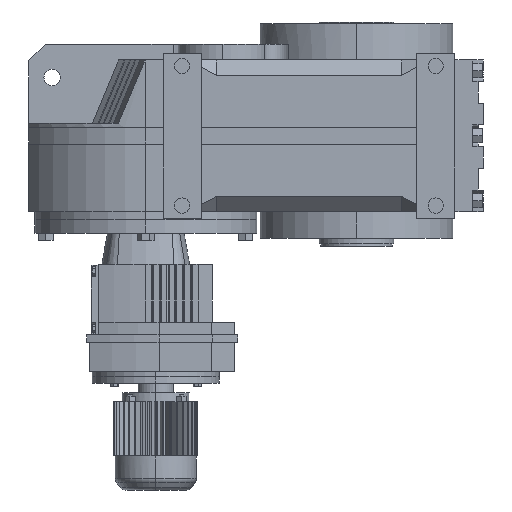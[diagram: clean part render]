
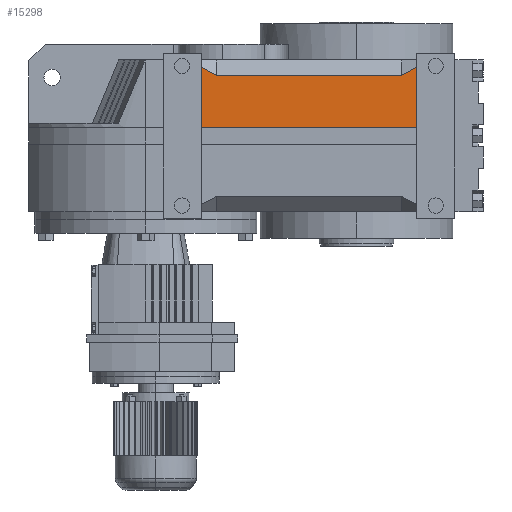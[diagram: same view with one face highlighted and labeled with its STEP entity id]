
A CAD part, left-side view. The second image highlights one B-rep face of the part: STEP entity #15298.
In plain terms, the highlighted planar face has unit normal (-1, 0, 0).
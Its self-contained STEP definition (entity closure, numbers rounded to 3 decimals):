
#2126 = PLANE('',#2127);
#2127 = AXIS2_PLACEMENT_3D('',#2128,#2129,#2130);
#2128 = CARTESIAN_POINT('',(-178.6,-87.4,2.5));
#2129 = DIRECTION('',(0.,-1.,0.));
#2130 = DIRECTION('',(1.,0.,0.));
#2154 = PLANE('',#2155);
#2155 = AXIS2_PLACEMENT_3D('',#2156,#2157,#2158);
#2156 = CARTESIAN_POINT('',(-315.577,-87.4,139.477));
#2157 = DIRECTION('',(-0.664,-0.342,0.664));
#2158 = DIRECTION('',(0.707,0.,0.707
    ));
#2182 = PLANE('',#2183);
#2183 = AXIS2_PLACEMENT_3D('',#2184,#2185,#2186);
#2184 = CARTESIAN_POINT('',(-190.6,1.,252.1));
#2185 = DIRECTION('',(-0.707,0.,
    0.707));
#2186 = DIRECTION('',(0.707,0.,0.707));
#2210 = PLANE('',#2211);
#2211 = AXIS2_PLACEMENT_3D('',#2212,#2213,#2214);
#2212 = CARTESIAN_POINT('',(-315.577,-427.4,139.477));
#2213 = DIRECTION('',(-0.664,0.342,0.664));
#2214 = DIRECTION('',(0.707,0.,0.707)
  );
#2238 = PLANE('',#2239);
#2239 = AXIS2_PLACEMENT_3D('',#2240,#2241,#2242);
#2240 = CARTESIAN_POINT('',(-178.6,-427.4,2.5));
#2241 = DIRECTION('',(0.,1.,0.));
#2242 = DIRECTION('',(-1.,0.,0.));
#6714 = VERTEX_POINT('',#6715);
#6715 = CARTESIAN_POINT('',(-214.6,-403.4,228.1));
#6736 = EDGE_CURVE('',#6737,#6714,#6739,.T.);
#6737 = VERTEX_POINT('',#6738);
#6738 = CARTESIAN_POINT('',(-214.6,-427.4,240.454));
#6739 = SURFACE_CURVE('',#6740,(#6744,#6751),.PCURVE_S1.);
#6740 = LINE('',#6741,#6742);
#6741 = CARTESIAN_POINT('',(-214.6,-515.146,285.619));
#6742 = VECTOR('',#6743,1.);
#6743 = DIRECTION('',(0.,0.889,
    -0.458));
#6744 = PCURVE('',#2210,#6745);
#6745 = DEFINITIONAL_REPRESENTATION('',(#6746),#6750);
#6746 = LINE('',#6747,#6748);
#6747 = CARTESIAN_POINT('',(174.74,-93.378));
#6748 = VECTOR('',#6749,1.);
#6749 = DIRECTION('',(-0.324,0.946));
#6750 = ( GEOMETRIC_REPRESENTATION_CONTEXT(2) 
PARAMETRIC_REPRESENTATION_CONTEXT() REPRESENTATION_CONTEXT('2D SPACE',''
  ) );
#6751 = PCURVE('',#6752,#6757);
#6752 = PLANE('',#6753);
#6753 = AXIS2_PLACEMENT_3D('',#6754,#6755,#6756);
#6754 = CARTESIAN_POINT('',(-214.6,-532.4,252.1));
#6755 = DIRECTION('',(1.,0.,0.));
#6756 = DIRECTION('',(0.,1.,0.));
#6757 = DEFINITIONAL_REPRESENTATION('',(#6758),#6762);
#6758 = LINE('',#6759,#6760);
#6759 = CARTESIAN_POINT('',(17.254,33.519));
#6760 = VECTOR('',#6761,1.);
#6761 = DIRECTION('',(0.889,-0.458));
#6762 = ( GEOMETRIC_REPRESENTATION_CONTEXT(2) 
PARAMETRIC_REPRESENTATION_CONTEXT() REPRESENTATION_CONTEXT('2D SPACE',''
  ) );
#8456 = VERTEX_POINT('',#8457);
#8457 = CARTESIAN_POINT('',(-214.6,-87.4,145.5));
#8471 = PLANE('',#8472);
#8472 = AXIS2_PLACEMENT_3D('',#8473,#8474,#8475);
#8473 = CARTESIAN_POINT('',(-9.231,1.,145.5));
#8474 = DIRECTION('',(0.,0.,-1.));
#8475 = DIRECTION('',(-1.,0.,0.));
#8483 = EDGE_CURVE('',#8484,#8456,#8486,.T.);
#8484 = VERTEX_POINT('',#8485);
#8485 = CARTESIAN_POINT('',(-214.6,-87.4,240.454));
#8486 = SURFACE_CURVE('',#8487,(#8491,#8498),.PCURVE_S1.);
#8487 = LINE('',#8488,#8489);
#8488 = CARTESIAN_POINT('',(-214.6,-87.4,252.1));
#8489 = VECTOR('',#8490,1.);
#8490 = DIRECTION('',(0.,0.,-1.));
#8491 = PCURVE('',#2126,#8492);
#8492 = DEFINITIONAL_REPRESENTATION('',(#8493),#8497);
#8493 = LINE('',#8494,#8495);
#8494 = CARTESIAN_POINT('',(-36.,249.6));
#8495 = VECTOR('',#8496,1.);
#8496 = DIRECTION('',(0.,-1.));
#8497 = ( GEOMETRIC_REPRESENTATION_CONTEXT(2) 
PARAMETRIC_REPRESENTATION_CONTEXT() REPRESENTATION_CONTEXT('2D SPACE',''
  ) );
#8498 = PCURVE('',#6752,#8499);
#8499 = DEFINITIONAL_REPRESENTATION('',(#8500),#8504);
#8500 = LINE('',#8501,#8502);
#8501 = CARTESIAN_POINT('',(445.,0.));
#8502 = VECTOR('',#8503,1.);
#8503 = DIRECTION('',(0.,-1.));
#8504 = ( GEOMETRIC_REPRESENTATION_CONTEXT(2) 
PARAMETRIC_REPRESENTATION_CONTEXT() REPRESENTATION_CONTEXT('2D SPACE',''
  ) );
#10882 = EDGE_CURVE('',#10883,#6737,#10885,.T.);
#10883 = VERTEX_POINT('',#10884);
#10884 = CARTESIAN_POINT('',(-214.6,-427.4,145.5));
#10885 = SURFACE_CURVE('',#10886,(#10890,#10897),.PCURVE_S1.);
#10886 = LINE('',#10887,#10888);
#10887 = CARTESIAN_POINT('',(-214.6,-427.4,252.1));
#10888 = VECTOR('',#10889,1.);
#10889 = DIRECTION('',(0.,0.,1.));
#10890 = PCURVE('',#2238,#10891);
#10891 = DEFINITIONAL_REPRESENTATION('',(#10892),#10896);
#10892 = LINE('',#10893,#10894);
#10893 = CARTESIAN_POINT('',(36.,249.6));
#10894 = VECTOR('',#10895,1.);
#10895 = DIRECTION('',(0.,1.));
#10896 = ( GEOMETRIC_REPRESENTATION_CONTEXT(2) 
PARAMETRIC_REPRESENTATION_CONTEXT() REPRESENTATION_CONTEXT('2D SPACE',''
  ) );
#10897 = PCURVE('',#6752,#10898);
#10898 = DEFINITIONAL_REPRESENTATION('',(#10899),#10903);
#10899 = LINE('',#10900,#10901);
#10900 = CARTESIAN_POINT('',(105.,0.));
#10901 = VECTOR('',#10902,1.);
#10902 = DIRECTION('',(0.,1.));
#10903 = ( GEOMETRIC_REPRESENTATION_CONTEXT(2) 
PARAMETRIC_REPRESENTATION_CONTEXT() REPRESENTATION_CONTEXT('2D SPACE',''
  ) );
#11165 = EDGE_CURVE('',#11166,#8484,#11168,.T.);
#11166 = VERTEX_POINT('',#11167);
#11167 = CARTESIAN_POINT('',(-214.6,-111.4,228.1));
#11168 = SURFACE_CURVE('',#11169,(#11173,#11180),.PCURVE_S1.);
#11169 = LINE('',#11170,#11171);
#11170 = CARTESIAN_POINT('',(-214.6,-434.454,61.814));
#11171 = VECTOR('',#11172,1.);
#11172 = DIRECTION('',(0.,0.889,
    0.458));
#11173 = PCURVE('',#2154,#11174);
#11174 = DEFINITIONAL_REPRESENTATION('',(#11175),#11179);
#11175 = LINE('',#11176,#11177);
#11176 = CARTESIAN_POINT('',(16.485,-369.327));
#11177 = VECTOR('',#11178,1.);
#11178 = DIRECTION('',(0.324,0.946));
#11179 = ( GEOMETRIC_REPRESENTATION_CONTEXT(2) 
PARAMETRIC_REPRESENTATION_CONTEXT() REPRESENTATION_CONTEXT('2D SPACE',''
  ) );
#11180 = PCURVE('',#6752,#11181);
#11181 = DEFINITIONAL_REPRESENTATION('',(#11182),#11186);
#11182 = LINE('',#11183,#11184);
#11183 = CARTESIAN_POINT('',(97.946,-190.286));
#11184 = VECTOR('',#11185,1.);
#11185 = DIRECTION('',(0.889,0.458));
#11186 = ( GEOMETRIC_REPRESENTATION_CONTEXT(2) 
PARAMETRIC_REPRESENTATION_CONTEXT() REPRESENTATION_CONTEXT('2D SPACE',''
  ) );
#13027 = EDGE_CURVE('',#6714,#11166,#13028,.T.);
#13028 = SURFACE_CURVE('',#13029,(#13033,#13040),.PCURVE_S1.);
#13029 = LINE('',#13030,#13031);
#13030 = CARTESIAN_POINT('',(-214.6,-87.4,228.1));
#13031 = VECTOR('',#13032,1.);
#13032 = DIRECTION('',(0.,1.,0.));
#13033 = PCURVE('',#2182,#13034);
#13034 = DEFINITIONAL_REPRESENTATION('',(#13035),#13039);
#13035 = LINE('',#13036,#13037);
#13036 = CARTESIAN_POINT('',(-33.941,-88.4));
#13037 = VECTOR('',#13038,1.);
#13038 = DIRECTION('',(0.,1.));
#13039 = ( GEOMETRIC_REPRESENTATION_CONTEXT(2) 
PARAMETRIC_REPRESENTATION_CONTEXT() REPRESENTATION_CONTEXT('2D SPACE',''
  ) );
#13040 = PCURVE('',#6752,#13041);
#13041 = DEFINITIONAL_REPRESENTATION('',(#13042),#13046);
#13042 = LINE('',#13043,#13044);
#13043 = CARTESIAN_POINT('',(445.,-24.));
#13044 = VECTOR('',#13045,1.);
#13045 = DIRECTION('',(1.,0.));
#13046 = ( GEOMETRIC_REPRESENTATION_CONTEXT(2) 
PARAMETRIC_REPRESENTATION_CONTEXT() REPRESENTATION_CONTEXT('2D SPACE',''
  ) );
#15298 = ADVANCED_FACE('',(#15299),#6752,.F.);
#15299 = FACE_BOUND('',#15300,.T.);
#15300 = EDGE_LOOP('',(#15301,#15302,#15303,#15304,#15305,#15306));
#15301 = ORIENTED_EDGE('',*,*,#10882,.T.);
#15302 = ORIENTED_EDGE('',*,*,#6736,.T.);
#15303 = ORIENTED_EDGE('',*,*,#13027,.T.);
#15304 = ORIENTED_EDGE('',*,*,#11165,.T.);
#15305 = ORIENTED_EDGE('',*,*,#8483,.T.);
#15306 = ORIENTED_EDGE('',*,*,#15307,.F.);
#15307 = EDGE_CURVE('',#10883,#8456,#15308,.T.);
#15308 = SURFACE_CURVE('',#15309,(#15313,#15320),.PCURVE_S1.);
#15309 = LINE('',#15310,#15311);
#15310 = CARTESIAN_POINT('',(-214.6,-532.4,145.5));
#15311 = VECTOR('',#15312,1.);
#15312 = DIRECTION('',(0.,1.,0.));
#15313 = PCURVE('',#6752,#15314);
#15314 = DEFINITIONAL_REPRESENTATION('',(#15315),#15319);
#15315 = LINE('',#15316,#15317);
#15316 = CARTESIAN_POINT('',(0.,-106.6));
#15317 = VECTOR('',#15318,1.);
#15318 = DIRECTION('',(1.,0.));
#15319 = ( GEOMETRIC_REPRESENTATION_CONTEXT(2) 
PARAMETRIC_REPRESENTATION_CONTEXT() REPRESENTATION_CONTEXT('2D SPACE',''
  ) );
#15320 = PCURVE('',#8471,#15321);
#15321 = DEFINITIONAL_REPRESENTATION('',(#15322),#15326);
#15322 = LINE('',#15323,#15324);
#15323 = CARTESIAN_POINT('',(205.369,-533.4));
#15324 = VECTOR('',#15325,1.);
#15325 = DIRECTION('',(0.,1.));
#15326 = ( GEOMETRIC_REPRESENTATION_CONTEXT(2) 
PARAMETRIC_REPRESENTATION_CONTEXT() REPRESENTATION_CONTEXT('2D SPACE',''
  ) );
